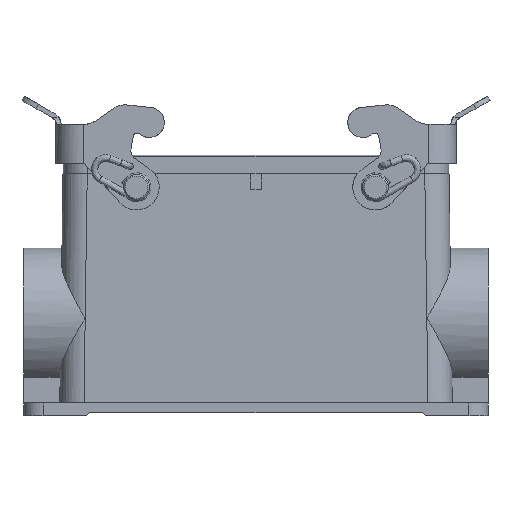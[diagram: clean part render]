
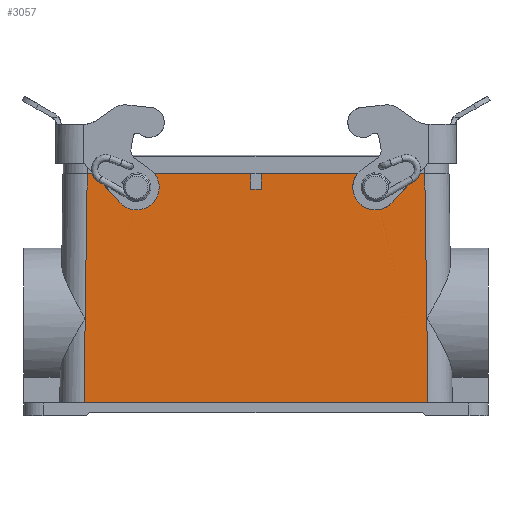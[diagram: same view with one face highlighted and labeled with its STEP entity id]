
A CAD part, front view. The second image highlights one B-rep face of the part: STEP entity #3057.
In plain terms, the highlighted planar face has unit normal (0, -1, 0.011).
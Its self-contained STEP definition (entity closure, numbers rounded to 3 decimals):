
#64=ELLIPSE('',#10605,2.4,2.4);
#65=ELLIPSE('',#10606,2.4,2.4);
#2467=FACE_BOUND('',#3832,.T.);
#2468=FACE_BOUND('',#3833,.T.);
#2469=FACE_BOUND('',#3834,.T.);
#2683=PLANE('',#10607);
#3057=ADVANCED_FACE('',(#2467,#2468,#2469),#2683,.T.);
#3832=EDGE_LOOP('',(#5081,#5082,#5083,#5084));
#3833=EDGE_LOOP('',(#5085,#5086,#5087,#5088));
#3834=EDGE_LOOP('',(#5089,#5090,#5091,#5092,#5093,#5094,#5095,#5096));
#5081=ORIENTED_EDGE('',*,*,#7439,.T.);
#5082=ORIENTED_EDGE('',*,*,#7440,.T.);
#5083=ORIENTED_EDGE('',*,*,#7441,.T.);
#5084=ORIENTED_EDGE('',*,*,#7442,.T.);
#5085=ORIENTED_EDGE('',*,*,#7443,.T.);
#5086=ORIENTED_EDGE('',*,*,#7444,.T.);
#5087=ORIENTED_EDGE('',*,*,#7445,.T.);
#5088=ORIENTED_EDGE('',*,*,#7446,.T.);
#5089=ORIENTED_EDGE('',*,*,#7447,.F.);
#5090=ORIENTED_EDGE('',*,*,#7248,.F.);
#5091=ORIENTED_EDGE('',*,*,#7448,.T.);
#5092=ORIENTED_EDGE('',*,*,#7427,.F.);
#5093=ORIENTED_EDGE('',*,*,#7449,.T.);
#5094=ORIENTED_EDGE('',*,*,#7240,.F.);
#5095=ORIENTED_EDGE('',*,*,#7450,.F.);
#5096=ORIENTED_EDGE('',*,*,#7451,.F.);
#6427=VERTEX_POINT('',#15273);
#6428=VERTEX_POINT('',#15275);
#6435=VERTEX_POINT('',#15289);
#6436=VERTEX_POINT('',#15291);
#6603=VERTEX_POINT('',#15836);
#6604=VERTEX_POINT('',#15838);
#6611=VERTEX_POINT('',#15860);
#6612=VERTEX_POINT('',#15861);
#6613=VERTEX_POINT('',#15872);
#6614=VERTEX_POINT('',#15874);
#6615=VERTEX_POINT('',#15877);
#6616=VERTEX_POINT('',#15878);
#6617=VERTEX_POINT('',#15889);
#6618=VERTEX_POINT('',#15891);
#6619=VERTEX_POINT('',#15894);
#6620=VERTEX_POINT('',#15898);
#7240=EDGE_CURVE('',#6427,#6428,#8857,.T.);
#7248=EDGE_CURVE('',#6435,#6436,#8861,.T.);
#7427=EDGE_CURVE('',#6603,#6604,#8996,.T.);
#7439=EDGE_CURVE('',#6611,#6612,#9005,.T.);
#7440=EDGE_CURVE('',#6612,#6613,#8075,.T.);
#7441=EDGE_CURVE('',#6613,#6614,#9006,.T.);
#7442=EDGE_CURVE('',#6614,#6611,#64,.T.);
#7443=EDGE_CURVE('',#6615,#6616,#9007,.T.);
#7444=EDGE_CURVE('',#6616,#6617,#8076,.T.);
#7445=EDGE_CURVE('',#6617,#6618,#9008,.T.);
#7446=EDGE_CURVE('',#6618,#6615,#65,.T.);
#7447=EDGE_CURVE('',#6436,#6619,#9009,.T.);
#7448=EDGE_CURVE('',#6435,#6604,#9010,.T.);
#7449=EDGE_CURVE('',#6603,#6428,#9011,.T.);
#7450=EDGE_CURVE('',#6620,#6427,#9012,.T.);
#7451=EDGE_CURVE('',#6619,#6620,#9013,.T.);
#8075=B_SPLINE_CURVE_WITH_KNOTS('',3,(#15862,#15863,#15864,#15865,#15866,
#15867,#15868,#15869,#15870,#15871),.UNSPECIFIED.,.F.,.F.,(4,2,2,2,4),(0.,
0.25,0.5,0.75,1.),.UNSPECIFIED.);
#8076=B_SPLINE_CURVE_WITH_KNOTS('',3,(#15879,#15880,#15881,#15882,#15883,
#15884,#15885,#15886,#15887,#15888),.UNSPECIFIED.,.F.,.F.,(4,2,2,2,4),(0.,
0.25,0.5,0.75,1.),.UNSPECIFIED.);
#8857=LINE('',#15274,#9414);
#8861=LINE('',#15290,#9418);
#8996=LINE('',#15837,#9553);
#9005=LINE('',#15859,#9562);
#9006=LINE('',#15873,#9563);
#9007=LINE('',#15876,#9564);
#9008=LINE('',#15890,#9565);
#9009=LINE('',#15893,#9566);
#9010=LINE('',#15895,#9567);
#9011=LINE('',#15896,#9568);
#9012=LINE('',#15897,#9569);
#9013=LINE('',#15899,#9570);
#9414=VECTOR('',#11455,1.);
#9418=VECTOR('',#11467,1.);
#9553=VECTOR('',#11730,1.);
#9562=VECTOR('',#11751,1.);
#9563=VECTOR('',#11752,1.);
#9564=VECTOR('',#11755,1.);
#9565=VECTOR('',#11756,1.);
#9566=VECTOR('',#11759,1.);
#9567=VECTOR('',#11760,1.);
#9568=VECTOR('',#11761,1.);
#9569=VECTOR('',#11762,1.);
#9570=VECTOR('',#11763,1.);
#10605=AXIS2_PLACEMENT_3D('',#15875,#11753,#11754);
#10606=AXIS2_PLACEMENT_3D('',#15892,#11757,#11758);
#10607=AXIS2_PLACEMENT_3D('',#15900,#11764,#11765);
#11455=DIRECTION('',(1.,0.,0.));
#11467=DIRECTION('',(1.,0.,0.));
#11730=DIRECTION('',(-1.,0.,0.));
#11751=DIRECTION('',(1.,0.,0.));
#11752=DIRECTION('',(1.,0.,0.));
#11753=DIRECTION('',(0.,1.,-0.011));
#11754=DIRECTION('',(0.,-0.011,-1.));
#11755=DIRECTION('',(1.,0.,0.));
#11756=DIRECTION('',(1.,0.,0.));
#11757=DIRECTION('',(0.,1.,-0.011));
#11758=DIRECTION('',(0.,-0.011,-1.));
#11759=DIRECTION('',(0.,-0.011,-1.));
#11760=DIRECTION('',(-0.014,-0.011,-1.));
#11761=DIRECTION('',(-0.014,0.011,1.));
#11762=DIRECTION('',(0.,0.011,1.));
#11763=DIRECTION('',(1.,0.,0.));
#11764=DIRECTION('',(0.,-1.,0.011));
#11765=DIRECTION('',(1.,0.,0.));
#15273=CARTESIAN_POINT('',(1.6,-21.5,5.7));
#15274=CARTESIAN_POINT('',(59.8,-21.5,5.7));
#15275=CARTESIAN_POINT('',(52.3,-21.5,5.7));
#15289=CARTESIAN_POINT('',(-52.3,-21.5,5.7));
#15290=CARTESIAN_POINT('',(59.8,-21.5,5.7));
#15291=CARTESIAN_POINT('',(-1.6,-21.5,5.7));
#15836=CARTESIAN_POINT('',(53.3,-22.3,-65.25));
#15837=CARTESIAN_POINT('',(72.,-22.3,-65.25));
#15838=CARTESIAN_POINT('',(-53.3,-22.3,-65.25));
#15859=CARTESIAN_POINT('',(0.,-21.547,1.55));
#15860=CARTESIAN_POINT('',(34.6,-21.547,1.55));
#15861=CARTESIAN_POINT('',(35.55,-21.547,1.55));
#15862=CARTESIAN_POINT('',(35.55,-21.547,1.55));
#15863=CARTESIAN_POINT('',(35.55,-21.542,1.95));
#15864=CARTESIAN_POINT('',(35.692,-21.538,2.292));
#15865=CARTESIAN_POINT('',(36.257,-21.532,2.858));
#15866=CARTESIAN_POINT('',(36.6,-21.53,3.));
#15867=CARTESIAN_POINT('',(37.4,-21.53,3.));
#15868=CARTESIAN_POINT('',(37.742,-21.532,2.858));
#15869=CARTESIAN_POINT('',(38.308,-21.538,2.292));
#15870=CARTESIAN_POINT('',(38.45,-21.542,1.951));
#15871=CARTESIAN_POINT('',(38.45,-21.547,1.55));
#15872=CARTESIAN_POINT('',(38.45,-21.547,1.55));
#15873=CARTESIAN_POINT('',(0.,-21.547,1.55));
#15874=CARTESIAN_POINT('',(39.4,-21.547,1.55));
#15875=CARTESIAN_POINT('',(37.,-21.547,1.55));
#15876=CARTESIAN_POINT('',(0.,-21.547,1.55));
#15877=CARTESIAN_POINT('',(-39.4,-21.547,1.55));
#15878=CARTESIAN_POINT('',(-38.45,-21.547,1.55));
#15879=CARTESIAN_POINT('',(-38.45,-21.547,1.55));
#15880=CARTESIAN_POINT('',(-38.45,-21.542,1.95));
#15881=CARTESIAN_POINT('',(-38.308,-21.538,2.292));
#15882=CARTESIAN_POINT('',(-37.743,-21.532,2.858));
#15883=CARTESIAN_POINT('',(-37.4,-21.53,3.));
#15884=CARTESIAN_POINT('',(-36.6,-21.53,3.));
#15885=CARTESIAN_POINT('',(-36.258,-21.532,2.858));
#15886=CARTESIAN_POINT('',(-35.692,-21.538,2.292));
#15887=CARTESIAN_POINT('',(-35.55,-21.542,1.951));
#15888=CARTESIAN_POINT('',(-35.55,-21.547,1.55));
#15889=CARTESIAN_POINT('',(-35.55,-21.547,1.55));
#15890=CARTESIAN_POINT('',(0.,-21.547,1.55));
#15891=CARTESIAN_POINT('',(-34.6,-21.547,1.55));
#15892=CARTESIAN_POINT('',(-37.,-21.547,1.55));
#15893=CARTESIAN_POINT('',(-1.6,-21.5,5.714));
#15894=CARTESIAN_POINT('',(-1.6,-21.553,1.015));
#15895=CARTESIAN_POINT('',(-53.302,-22.301,-65.356));
#15896=CARTESIAN_POINT('',(52.302,-21.501,5.594));
#15897=CARTESIAN_POINT('',(1.6,-21.553,1.015));
#15898=CARTESIAN_POINT('',(1.6,-21.553,1.015));
#15899=CARTESIAN_POINT('',(-1.6,-21.553,1.015));
#15900=CARTESIAN_POINT('',(0.,-22.3,-65.25));
